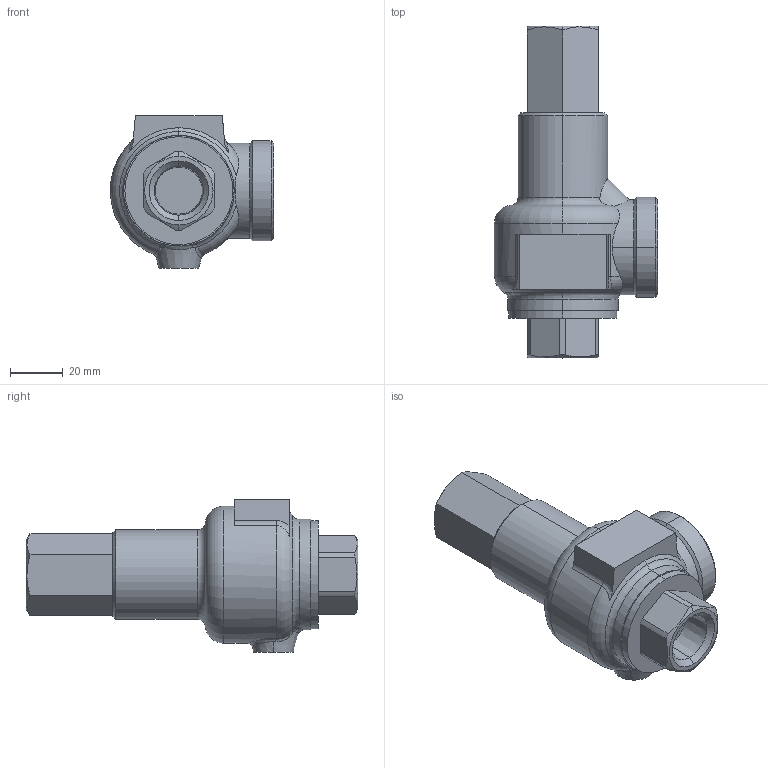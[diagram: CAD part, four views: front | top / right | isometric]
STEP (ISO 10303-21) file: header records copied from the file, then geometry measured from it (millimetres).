
FILE_DESCRIPTION (( 'STEP AP203' ), '1' );
FILE_NAME ('AL-140H 15A.STEP', '2026-01-08T05:21:19', ( '' ), ( '' ), 'SwSTEP 2.0', 'SolidWorks 2024', '' );
FILE_SCHEMA (( 'CONFIG_CONTROL_DESIGN' ));
Length unit declared in the file: millimetre
Products named in the file (1): AL-140H 15A
Bounding box: 62 x 126 x 58 mm (x, y, z)
Volume: 152553 mm3; surface area: 21832.9 mm2
Topology: 1 solids, 1 shells, 88 faces, 212 edges, 131 vertices
Faces by surface type: plane 26, cylinder 23, cone 20, torus 11, bspline 8
Entity records: 3628 total; most frequent: CARTESIAN_POINT 1557, ORIENTED_EDGE 424, DIRECTION 413, EDGE_CURVE 212, AXIS2_PLACEMENT_3D 169, VERTEX_POINT 131, EDGE_LOOP 93, ADVANCED_FACE 88
